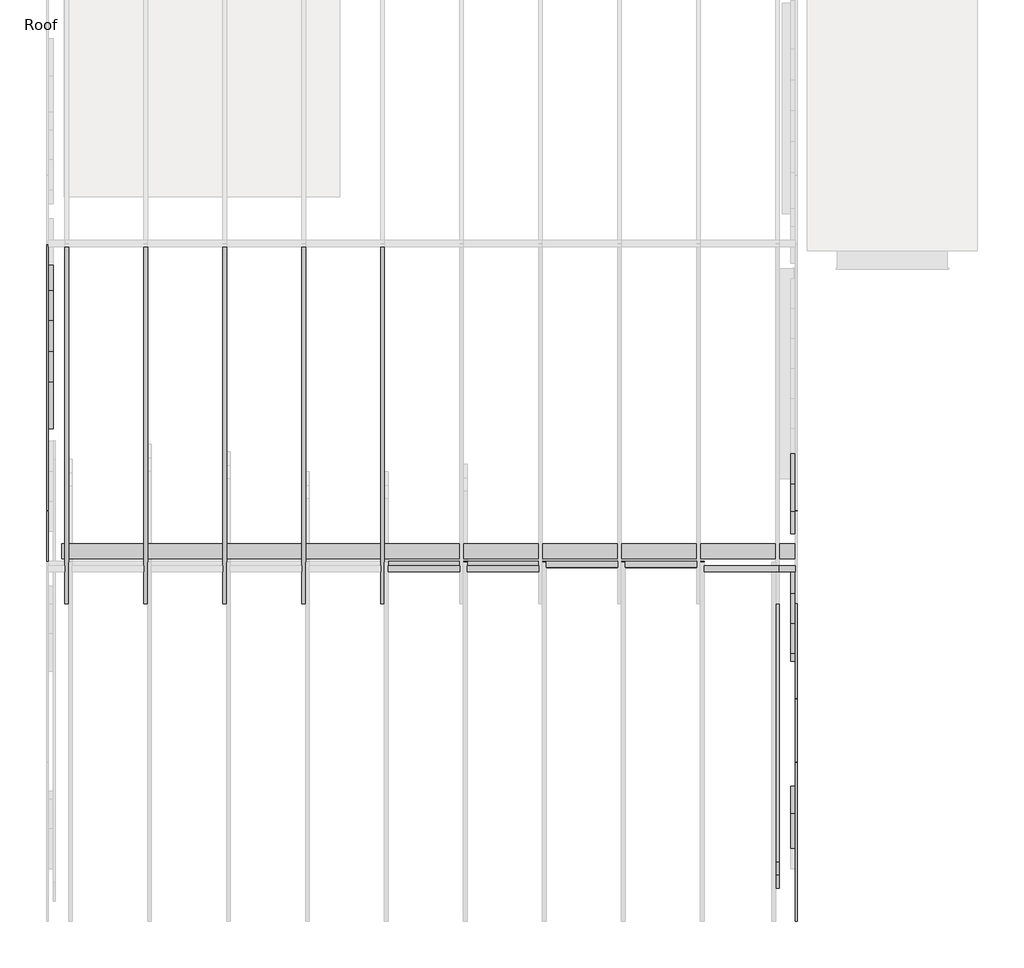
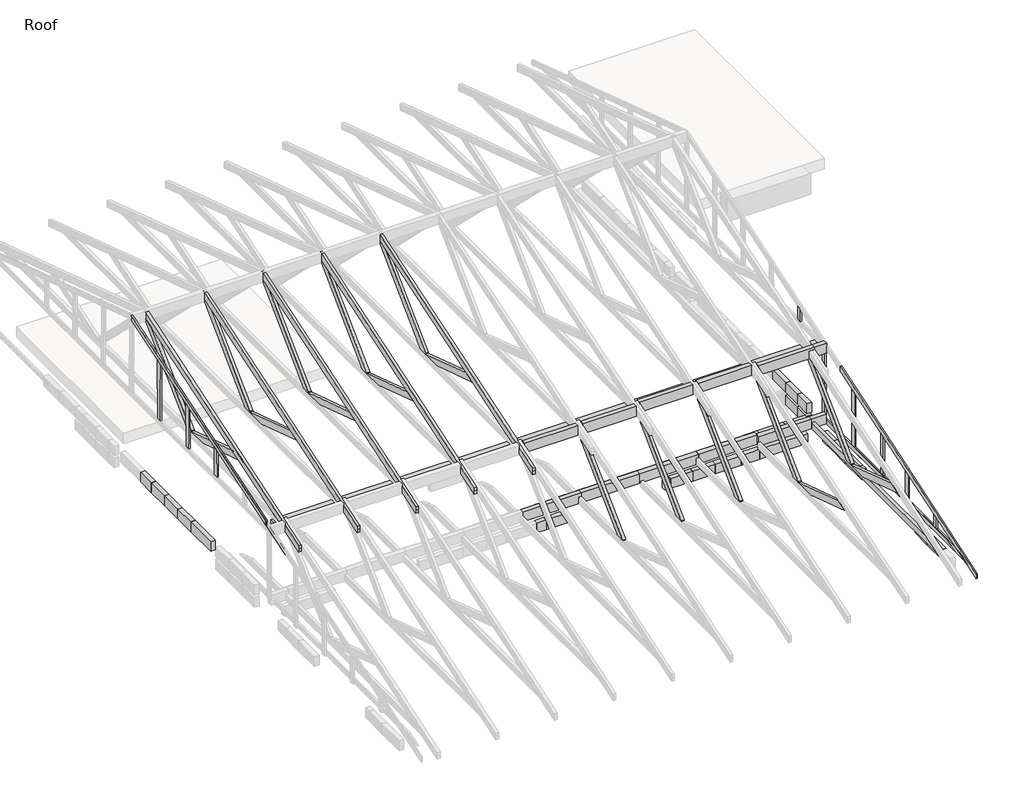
# One storey, part 2 of 5: 87 beams.
"""IFC4 building model written with IfcOpenShell, lengths in millimetres."""

from ifc_helpers import new_model, si_unit, frame, origin, place, context, project, spatial, polyline, outline, extrude, faceted_brep, transform, mapped, element, save
from components import beam_9a653d77, beam_1a415509, beam_5c19c8d0, beam_bdc5a986, beam_a51ce868, beam_5691c770, beam_a14fae22, beam_a3a851c1, experttrusspart_2_x_4_7bcd8695, beam_b4771957, beam_6c0b117f, beam_74c60bf1, beam_a2527db5, beam_15675283, beam_87a5317c, beam_8e5e3f5a, beam_466d3d54, beam_c39f55a4, beam_c2d99e7f, beam_ed930484, beam_e65ac014, beam_c20683a9, beam_0a54014a, beam_9d6aa0d6, beam_b55a0d5f, beam_a4d90c35, beam_cc9ad65c, beam_51b55d0f, beam_50f049cc, beam_f3d449ce, beam_d29d678d

model = new_model("IFC4")

# Units and contexts
model_context = context("Model", 3, world=origin())
ifc_project = project(units=[si_unit("LENGTHUNIT", "METRE", prefix="MILLI")], contexts=[model_context])

# Site, building, storey
site = spatial("IfcSite", under=ifc_project)
building = spatial("IfcBuilding", under=site)
storey = spatial("IfcBuildingStorey", under=building, Name="Roof", Elevation=4267.2)

# Beams
placement = place(None, origin())
element("IfcBeam", 1, ObjectType="BraceBeam : 1\" x 3\"", at=placement, inside=storey, context=model_context, shape_type="Brep", body=[
    faceted_brep([(-11513.8040766, -25617.9763369, 3399.7852354), (-11532.8540766, -25617.9763369, 3399.7852354), (-11532.8540766, -21960.3763369, 4593.5852354), (-11513.8040766, -21960.3763369, 4593.5852354), (-11532.8540766, -25617.9763369, 3433.1836052), (-11532.8540766, -25617.9763369, 3466.581975), (-11532.8540766, -21960.3763369, 4660.381975), (-11532.8540766, -21960.3763369, 4626.9836052), (-11513.8040766, -25617.9763369, 3466.581975), (-11513.8040766, -21960.3763369, 4660.381975), (-11513.8040766, -25617.9763369, 3433.1836052), (-11513.8040766, -21960.3763369, 4626.9836052)], [[[0, 1, 2, 3]], [[4, 5, 6, 7, 2, 1]], [[5, 8, 9, 6]], [[10, 0, 3, 11, 9, 8]], [[8, 5, 4, 1, 0, 10]], [[6, 9, 11, 3, 2, 7]]]),
    faceted_brep([(-11532.8540766, -25160.7763369, 3615.806975), (-11532.8540766, -21960.3763369, 4660.381975), (-11532.8540766, -21960.3763369, 4626.9836052), (-11532.8540766, -21960.3763369, 4593.5852354), (-11532.8540766, -25160.7763369, 3549.0102354), (-11513.8040766, -21960.3763369, 4593.5852354), (-11513.8040766, -25160.7763369, 3549.0102354), (-11513.8040766, -21960.3763369, 4660.381975), (-11513.8040766, -21960.3763369, 4626.9836052), (-11513.8040766, -25160.7763369, 3615.806975)], [[[0, 1, 2, 3, 4]], [[4, 3, 5, 6]], [[1, 7, 8, 5, 3, 2]], [[6, 5, 8, 7, 9]], [[9, 7, 1, 0]], [[4, 6, 9, 0]]]),
])
element("IfcBeam", 2, ObjectType="BraceBeam : 1\" x 3\"", at=placement, inside=storey, context=model_context, shape_type="Brep", body=[
    faceted_brep([(-3931.9039672, -25186.1763369, 2438.4434705), (-3912.8539672, -25186.1763369, 2438.4434705), (-3912.8539672, -28588.8970583, 2438.4434705), (-3931.9039672, -28588.8970583, 2438.4434705), (-3912.8539672, -25186.1763369, 2501.9434705), (-3912.8539672, -28394.3438668, 2501.9434705), (-3912.8539672, -28491.6204625, 2470.1934705), (-3931.9039672, -25186.1763369, 2501.9434705), (-3931.9039672, -28394.3438668, 2501.9434705), (-3931.9039672, -28491.6204625, 2470.1934705)], [[[0, 1, 2, 3]], [[1, 4, 5, 6, 2]], [[4, 7, 8, 5]], [[7, 0, 3, 9, 8]], [[7, 4, 1, 0]], [[5, 8, 9, 3, 2, 6]]]),
    faceted_brep([(-3931.9039672, -25186.1763369, 2438.4434705), (-3912.8539672, -25186.1763369, 2438.4434705), (-3912.8539672, -28355.4332285, 2438.4434705), (-3931.9039672, -28355.4332285, 2438.4434705), (-3931.9039672, -25186.1763369, 2501.9434705), (-3912.8539672, -25186.1763369, 2501.9434705), (-3912.8539672, -28160.880037, 2501.9434705), (-3931.9039672, -28160.880037, 2501.9434705)], [[[0, 1, 2, 3]], [[4, 5, 1, 0]], [[1, 5, 6, 2]], [[4, 0, 3, 7]], [[5, 4, 7, 6]], [[3, 2, 6, 7]]]),
])
element("IfcBeam", 3, ObjectType="BraceBeam : 1\" x 3\"", at=placement, inside=storey, context=model_context, shape_type="SweptSolid", body=[
    extrude(outline(polyline([(31.7500001, -9.525), (-31.75, -9.525), (-31.75, 9.525), (31.7500001, 9.525), (31.7500001, -9.525)])), frame((-3922.3790766, -25221.5557645, 2501.9434705), z_axis=(0.0, -0.0009999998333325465, 0.9999995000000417), x_axis=(2.093352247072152e-12, 0.9999995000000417, 0.0009999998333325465)), (0.0, 0.0, 1.0), 980.5139947),
])
element("IfcBeam", 4, ObjectType="BraceBeam : 1\" x 3\"", at=placement, inside=storey, context=model_context, shape_type="Brep", body=[
    faceted_brep([(-3931.904186, -28842.189196, 2347.4379827), (-3931.9040766, -25617.9763366, 3399.7852354), (-3912.8540766, -25617.9763372, 3399.7852354), (-3912.854186, -28842.1891967, 2347.4379827), (-3912.854186, -28842.1891967, 2380.8363525), (-3912.8540766, -25617.9763372, 3433.1836052), (-3912.8540766, -25617.9763372, 3466.581975), (-3912.854186, -28842.1891967, 2414.2347222), (-3931.9040766, -25617.9763366, 3466.581975), (-3931.904186, -28842.189196, 2414.2347222), (-3931.904186, -28842.189196, 2380.8363525), (-3931.9040766, -25617.9763366, 3433.1836052)], [[[0, 1, 2, 3]], [[4, 3, 2, 5, 6, 7]], [[7, 6, 8, 9]], [[10, 9, 8, 11, 1, 0]], [[9, 10, 0, 3, 4, 7]], [[6, 5, 2, 1, 11, 8]]]),
])
element("IfcBeam", 5, ObjectType="BraceBeam : 1\" x 3\"", at=placement, inside=storey, context=model_context, shape_type="Brep", body=[
    faceted_brep([(-3931.9041853, -28639.6920577, 2438.4434705), (-3931.903974, -25293.5535808, 2438.4434705), (-3912.853974, -25293.553582, 2438.4434705), (-3912.8541853, -28639.6920589, 2438.4434705), (-3912.8541792, -28542.4154631, 2470.1934705), (-3912.853974, -25293.553582, 2501.9434705), (-3912.854173, -28445.1388674, 2501.9434705), (-3931.903974, -25293.5535808, 2501.9434705), (-3931.904173, -28445.1388662, 2501.9434705), (-3931.9041792, -28542.4154619, 2470.1934705)], [[[0, 1, 2, 3]], [[4, 3, 2, 5, 6]], [[6, 5, 7, 8]], [[9, 8, 7, 1, 0]], [[8, 9, 0, 3, 4, 6]], [[5, 2, 1, 7]]]),
])
element("IfcBeam", 6, ObjectType="BraceBeam : 1\" x 3\"", at=placement, inside=storey, context=model_context, shape_type="Brep", body=[
    faceted_brep([(-11532.8540766, -25617.9763369, 3399.7852354), (-11532.8540766, -21960.3763369, 4593.5852354), (-11513.8040766, -21960.3763369, 4593.5852354), (-11513.8040766, -25617.9763369, 3399.7852354), (-11513.8040766, -25617.9763369, 3433.1836052), (-11513.8040766, -21960.3763369, 4626.9836052), (-11513.8040766, -21960.3763369, 4660.381975), (-11513.8040766, -25617.9763369, 3466.581975), (-11532.8540766, -21960.3763369, 4660.381975), (-11532.8540766, -25617.9763369, 3466.581975), (-11532.8540766, -25617.9763369, 3433.1836052), (-11532.8540766, -21960.3763369, 4626.9836052)], [[[0, 1, 2, 3]], [[4, 3, 2, 5, 6, 7]], [[7, 6, 8, 9]], [[10, 9, 8, 11, 1, 0]], [[9, 10, 0, 3, 4, 7]], [[6, 5, 2, 1, 11, 8]]]),
])
beam_shape = beam_9a653d77(model_context)
element("IfcBeam", 7, ObjectType="BraceBeam : 1\" x 3\"", at=placement, inside=storey, context=model_context, shape_type="MappedRepresentation", body=[
    mapped(beam_shape, transform((-3922.3790766, -24644.0985149, 3632.8478118), x_axis=(0.0, 0.011417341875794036, 0.9999348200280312), y_axis=(-1.0, 0.0, 0.0), z_axis=(0.0, -0.9999348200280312, 0.011417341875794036))),
])
beam_2_shape = beam_1a415509(model_context)
element("IfcBeam", 8, ObjectType="BraceBeam : 1\" x 3\"", at=placement, inside=storey, context=model_context, shape_type="MappedRepresentation", body=[
    mapped(beam_2_shape, transform((-3922.3790487, -27197.3036991, 2694.1185765), x_axis=(-3.6380339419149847e-07, 0.004583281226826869, 0.9999894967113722), y_axis=(-0.9999999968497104, -7.937618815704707e-05, 0.0), z_axis=(7.937535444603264e-05, -0.9999894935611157, 0.0045832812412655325))),
])
beam_3_shape = beam_5c19c8d0(model_context)
element("IfcBeam", 9, ObjectType="BraceBeam : 1\" x 3\"", at=placement, inside=storey, context=model_context, shape_type="MappedRepresentation", body=[
    mapped(beam_3_shape, transform((-3922.3790601, -27869.4769057, 2584.2761158), x_axis=(-8.141728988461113e-07, 0.0010722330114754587, 0.9999994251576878), y_axis=(-0.9999997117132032, -0.0007593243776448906, 0.0), z_axis=(0.0007593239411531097, -0.9999991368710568, 0.0010722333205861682))),
])
beam_4_shape = beam_bdc5a986(model_context)
element("IfcBeam", 10, ObjectType="BraceBeam : 1\" x 3\"", at=placement, inside=storey, context=model_context, shape_type="MappedRepresentation", body=[
    mapped(beam_4_shape, transform((-3922.3790272, -25929.0336015, 2900.8391841), x_axis=(-1.3927486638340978e-07, -0.001231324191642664, 0.9999992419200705), y_axis=(0.9999999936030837, -0.00011310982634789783, 0.0), z_axis=(0.00011310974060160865, 0.9999992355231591, 0.001231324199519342))),
])
beam_5_shape = beam_a51ce868(model_context)
element("IfcBeam", 11, ObjectType="BraceBeam : 1\" x 3\"", at=placement, inside=storey, context=model_context, shape_type="MappedRepresentation", body=[
    mapped(beam_5_shape, transform((-3922.3790388, -26612.5257611, 2789.1713542), x_axis=(-2.244192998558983e-07, -0.004077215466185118, 0.9999916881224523), y_axis=(0.9999999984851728, -5.504229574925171e-05, 0.0), z_axis=(5.504183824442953e-05, 0.9999916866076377, 0.004077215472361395))),
])
beam_6_shape = beam_5691c770(model_context)
element("IfcBeam", 12, ObjectType="BraceBeam : 1\" x 3\"", at=placement, inside=storey, context=model_context, shape_type="MappedRepresentation", body=[
    mapped(beam_6_shape, transform((-11523.3290766, -22627.5788952, 3962.3751938), x_axis=(0.0, 0.009073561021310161, 0.9999588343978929), y_axis=(-1.0, 0.0, 0.0), z_axis=(0.0, -0.9999588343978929, 0.009073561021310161))),
])
beam_7_shape = beam_a14fae22(model_context)
element("IfcBeam", 13, ObjectType="BraceBeam : 1\" x 3\"", at=placement, inside=storey, context=model_context, shape_type="MappedRepresentation", body=[
    mapped(beam_7_shape, transform((-11523.3290766, -23299.7521017, 3852.5327331), x_axis=(0.0, 0.009347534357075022, 0.9999563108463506), y_axis=(-1.0, 0.0, 0.0), z_axis=(0.0, -0.9999563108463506, 0.009347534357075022))),
])
beam_8_shape = beam_a3a851c1(model_context)
element("IfcBeam", 14, ObjectType="BraceBeam : 1\" x 3\"", at=placement, inside=storey, context=model_context, shape_type="MappedRepresentation", body=[
    mapped(beam_8_shape, transform((-11523.3290766, -23971.9253083, 3742.6902724), x_axis=(0.0, 0.009884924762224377, 0.9999511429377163), y_axis=(-1.0, 0.0, 0.0), z_axis=(0.0, -0.9999511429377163, 0.009884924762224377))),
])
element("IfcBeam", 15, ObjectType="ExpertTrussPart : 2 x 4", at=placement, inside=storey, context=model_context, shape_type="SweptSolid", body=[
    extrude(outline(polyline([(-22127.3062634, 4512.3824664), (-21960.3763369, 4566.8665396), (-21960.3763369, 4551.4138285), (-22961.2854639, 3571.356975), (-23070.2152636, 3571.356975), (-23071.8996445, 3587.468114), (-22127.3062634, 4512.3824664)])), frame((-11346.7990766, 0.0, 0.0), z_axis=(1.0, 0.0, 0.0), x_axis=(0.0, 1.0, 0.0)), (0.0, 0.0, 1.0), 38.1),
])
element("IfcBeam", 16, ObjectType="ExpertTrussPart : 2 x 4", at=placement, inside=storey, context=model_context, shape_type="SweptSolid", body=[
    extrude(outline(polyline([(-24166.2622428, 3931.4022483), (-23070.4650535, 3573.7462213), (-23070.2152636, 3571.356975), (-23349.6601858, 3571.356975), (-24309.5199309, 3884.6445307), (-24237.8910869, 3908.0233895), (-24166.2622428, 3931.4022483)])), frame((-11346.7990766, 0.0, 0.0), z_axis=(1.0, 0.0, 0.0), x_axis=(0.0, 1.0, 0.0)), (0.0, 0.0, 1.0), 38.1),
])
element("IfcBeam", 17, ObjectType="ExpertTrussPart : 2 x 4", at=placement, inside=storey, context=model_context, shape_type="SweptSolid", body=[
    extrude(outline(polyline([(-22127.3062634, 4512.3824664), (-21960.3763369, 4566.8665396), (-21960.3763369, 4551.4138285), (-22961.2854639, 3571.356975), (-23070.2152636, 3571.356975), (-23071.8996445, 3587.468114), (-22127.3062634, 4512.3824664)])), frame((-10545.0057433, 0.0, 0.0), z_axis=(1.0, 0.0, 0.0), x_axis=(0.0, 1.0, 0.0)), (0.0, 0.0, 1.0), 38.1),
])
element("IfcBeam", 18, ObjectType="ExpertTrussPart : 2 x 4", at=placement, inside=storey, context=model_context, shape_type="SweptSolid", body=[
    extrude(outline(polyline([(-24036.796502, 3889.1460691), (-23070.4650535, 3573.7462213), (-23070.2152636, 3571.356975), (-23349.6601858, 3571.356975), (-24180.0541902, 3842.3883514), (-24108.4253461, 3865.7672102), (-24036.796502, 3889.1460691)])), frame((-10545.0057433, 0.0, 0.0), z_axis=(1.0, 0.0, 0.0), x_axis=(0.0, 1.0, 0.0)), (0.0, 0.0, 1.0), 38.1),
])
element("IfcBeam", 19, ObjectType="ExpertTrussPart : 2 x 4", at=placement, inside=storey, context=model_context, shape_type="SweptSolid", body=[
    extrude(outline(polyline([(-22127.3062634, 4512.3824664), (-21960.3763369, 4566.8665396), (-21960.3763369, 4551.4138285), (-22961.2854639, 3571.356975), (-23070.2152636, 3571.356975), (-23071.8996445, 3587.468114), (-22127.3062634, 4512.3824664)])), frame((-9743.2124099, 0.0, 0.0), z_axis=(1.0, 0.0, 0.0), x_axis=(0.0, 1.0, 0.0)), (0.0, 0.0, 1.0), 38.1),
])
element("IfcBeam", 20, ObjectType="ExpertTrussPart : 2 x 4", at=placement, inside=storey, context=model_context, shape_type="SweptSolid", body=[
    extrude(outline(polyline([(-24036.796502, 3889.1460691), (-23070.4650535, 3573.7462213), (-23070.2152636, 3571.356975), (-23349.6601858, 3571.356975), (-24180.0541902, 3842.3883514), (-24108.4253461, 3865.7672102), (-24036.796502, 3889.1460691)])), frame((-9743.2124099, 0.0, 0.0), z_axis=(1.0, 0.0, 0.0), x_axis=(0.0, 1.0, 0.0)), (0.0, 0.0, 1.0), 38.1),
])
element("IfcBeam", 21, ObjectType="ExpertTrussPart : 2 x 4", at=placement, inside=storey, context=model_context, shape_type="SweptSolid", body=[
    extrude(outline(polyline([(-22127.3062634, 4512.3824664), (-21960.3763369, 4566.8665396), (-21960.3763369, 4551.4138285), (-22961.2854639, 3571.356975), (-23070.2152636, 3571.356975), (-23071.8996445, 3587.468114), (-22127.3062634, 4512.3824664)])), frame((-8941.4190766, 0.0, 0.0), z_axis=(1.0, 0.0, 0.0), x_axis=(0.0, 1.0, 0.0)), (0.0, 0.0, 1.0), 38.1),
])
element("IfcBeam", 22, ObjectType="ExpertTrussPart : 2 x 4", at=placement, inside=storey, context=model_context, shape_type="SweptSolid", body=[
    extrude(outline(polyline([(-24036.796502, 3889.1460691), (-23070.4650535, 3573.7462213), (-23070.2152636, 3571.356975), (-23349.6601858, 3571.356975), (-24180.0541902, 3842.3883514), (-24108.4253461, 3865.7672102), (-24036.796502, 3889.1460691)])), frame((-8941.4190766, 0.0, 0.0), z_axis=(1.0, 0.0, 0.0), x_axis=(0.0, 1.0, 0.0)), (0.0, 0.0, 1.0), 38.1),
])
element("IfcBeam", 23, ObjectType="ExpertTrussPart : 2 x 4", at=placement, inside=storey, context=model_context, shape_type="SweptSolid", body=[
    extrude(outline(polyline([(-22127.3062634, 4512.3824664), (-21960.3763369, 4566.8665396), (-21960.3763369, 4551.4138285), (-22961.2854639, 3571.356975), (-23070.2152636, 3571.356975), (-23071.8996445, 3587.468114), (-22127.3062634, 4512.3824664)])), frame((-8139.6257433, 0.0, 0.0), z_axis=(1.0, 0.0, 0.0), x_axis=(0.0, 1.0, 0.0)), (0.0, 0.0, 1.0), 38.1),
])
element("IfcBeam", 24, ObjectType="ExpertTrussPart : 2 x 4", at=placement, inside=storey, context=model_context, shape_type="SweptSolid", body=[
    extrude(outline(polyline([(-24036.796502, 3889.1460691), (-23070.4650535, 3573.7462213), (-23070.2152636, 3571.356975), (-23349.6601858, 3571.356975), (-24180.0541902, 3842.3883514), (-24108.4253461, 3865.7672102), (-24036.796502, 3889.1460691)])), frame((-8139.6257433, 0.0, 0.0), z_axis=(1.0, 0.0, 0.0), x_axis=(0.0, 1.0, 0.0)), (0.0, 0.0, 1.0), 38.1),
])
element("IfcBeam", 25, ObjectType="ExpertTrussPart : 2 x 4", at=placement, inside=storey, context=model_context, shape_type="SweptSolid", body=[
    extrude(outline(polyline([(-25364.2857159, 3455.8683395), (-25197.3557894, 3510.3524128), (-25197.3557894, 3494.8997017), (-26185.4983234, 2527.3434705), (-26294.428123, 2527.3434705), (-26296.112504, 2543.4546095), (-25364.2857159, 3455.8683395)])), frame((-7299.7323005, 0.0, 0.0), z_axis=(1.0, 0.0, 0.0), x_axis=(0.0, 1.0, 0.0)), (0.0, 0.0, 1.0), 38.1),
])
element("IfcBeam", 26, ObjectType="ExpertTrussPart : 2 x 4", at=placement, inside=storey, context=model_context, shape_type="SweptSolid", body=[
    extrude(outline(polyline([(-25364.2857159, 3455.8683395), (-25197.3557894, 3510.3524128), (-25197.3557894, 3494.8997017), (-26185.4983234, 2527.3434705), (-26294.428123, 2527.3434705), (-26296.112504, 2543.4546095), (-25364.2857159, 3455.8683395)])), frame((-6497.9389672, 0.0, 0.0), z_axis=(1.0, 0.0, 0.0), x_axis=(0.0, 1.0, 0.0)), (0.0, 0.0, 1.0), 38.1),
])
element("IfcBeam", 27, ObjectType="ExpertTrussPart : 2 x 4", at=placement, inside=storey, context=model_context, shape_type="SweptSolid", body=[
    extrude(outline(polyline([(-25364.2857159, 3455.8683395), (-25197.3557894, 3510.3524128), (-25197.3557894, 3494.8997017), (-26185.4983234, 2527.3434705), (-26294.428123, 2527.3434705), (-26296.112504, 2543.4546095), (-25364.2857159, 3455.8683395)])), frame((-5696.1456339, 0.0, 0.0), z_axis=(1.0, 0.0, 0.0), x_axis=(0.0, 1.0, 0.0)), (0.0, 0.0, 1.0), 38.1),
])
element("IfcBeam", 28, ObjectType="ExpertTrussPart : 2 x 4", at=placement, inside=storey, context=model_context, shape_type="SweptSolid", body=[
    extrude(outline(polyline([(-25364.2857159, 3455.8683395), (-25197.3557894, 3510.3524128), (-25197.3557894, 3494.8997017), (-26185.4983234, 2527.3434705), (-26294.428123, 2527.3434705), (-26296.112504, 2543.4546095), (-25364.2857159, 3455.8683395)])), frame((-4894.3523005, 0.0, 0.0), z_axis=(1.0, 0.0, 0.0), x_axis=(0.0, 1.0, 0.0)), (0.0, 0.0, 1.0), 38.1),
])
element("IfcBeam", 29, ObjectType="ExpertTrussPart : 2 x 4", at=placement, inside=storey, context=model_context, shape_type="SweptSolid", body=[
    extrude(outline(polyline([(-27261.0093615, 2845.1325646), (-26294.677913, 2529.7327168), (-26294.428123, 2527.3434705), (-26573.8730452, 2527.3434705), (-27404.2670497, 2798.3748469), (-27332.6382056, 2821.7537058), (-27261.0093615, 2845.1325646)])), frame((-4894.3523005, 0.0, 0.0), z_axis=(1.0, 0.0, 0.0), x_axis=(0.0, 1.0, 0.0)), (0.0, 0.0, 1.0), 38.1),
])
element("IfcBeam", 30, ObjectType="ExpertTrussPart : 2 x 4", at=placement, inside=storey, context=model_context, shape_type="SweptSolid", body=[
    extrude(outline(polyline([(-25222.0136645, 2527.3434705), (-25222.0136645, 2482.8934705), (-25222.0136645, 2438.4434705), (-28507.0355222, 2438.4434705), (-28370.8482881, 2482.8934705), (-28234.6610541, 2527.3434705), (-25222.0136645, 2527.3434705)])), frame((-4130.6589672, 0.0, 0.0), z_axis=(1.0, 0.0, 0.0), x_axis=(0.0, 1.0, 0.0)), (0.0, 0.0, 1.0), 38.1),
])
element("IfcBeam", 31, ObjectType="ExpertTrussPart : 2 x 4", at=placement, inside=storey, context=model_context, shape_type="SweptSolid", body=[
    extrude(outline(polyline([(-25364.2857159, 3455.8683395), (-25197.3557894, 3510.3524128), (-25197.3557894, 3494.8997017), (-26185.4983234, 2527.3434705), (-26294.428123, 2527.3434705), (-26296.112504, 2543.4546095), (-25364.2857159, 3455.8683395)])), frame((-4168.759186, 0.0, 0.0), z_axis=(1.0, 0.0, 0.0), x_axis=(0.0, 1.0, 0.0)), (0.0, 0.0, 1.0), 38.1),
])
element("IfcBeam", 32, ObjectType="ExpertTrussPart : 2 x 4", at=placement, inside=storey, context=model_context, shape_type="SweptSolid", body=[
    extrude(outline(polyline([(-27261.0093615, 2845.1325646), (-26294.677913, 2529.7327168), (-26294.428123, 2527.3434705), (-26573.8730452, 2527.3434705), (-27404.2670497, 2798.3748469), (-27332.6382056, 2821.7537058), (-27261.0093615, 2845.1325646)])), frame((-4168.759186, 0.0, 0.0), z_axis=(1.0, 0.0, 0.0), x_axis=(0.0, 1.0, 0.0)), (0.0, 0.0, 1.0), 38.1),
])
experttrusspart_2_x_4_shape = experttrusspart_2_x_4_7bcd8695(model_context)
element("IfcBeam", 33, ObjectType="ExpertTrussPart : 2 x 4", at=placement, inside=storey, context=model_context, shape_type="MappedRepresentation", body=[
    mapped(experttrusspart_2_x_4_shape, transform((-10525.9557433, -23775.3843895, 3974.468078), x_axis=(0.0, -0.9506452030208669, -0.310280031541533), y_axis=(1.0, 0.0, 0.0), z_axis=(0.0, -0.31028003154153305, 0.950645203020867))),
])
element("IfcBeam", 34, ObjectType="ExpertTrussPart : 2 x 4", at=placement, inside=storey, context=model_context, shape_type="MappedRepresentation", body=[
    mapped(experttrusspart_2_x_4_shape, transform((-9724.1624099, -23775.3843895, 3974.468078), x_axis=(0.0, -0.9506452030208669, -0.310280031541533), y_axis=(1.0, 0.0, 0.0), z_axis=(0.0, -0.31028003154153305, 0.950645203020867))),
])
element("IfcBeam", 35, ObjectType="ExpertTrussPart : 2 x 4", at=placement, inside=storey, context=model_context, shape_type="MappedRepresentation", body=[
    mapped(experttrusspart_2_x_4_shape, transform((-8922.3690766, -23775.3843895, 3974.468078), x_axis=(0.0, -0.9506452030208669, -0.310280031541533), y_axis=(1.0, 0.0, 0.0), z_axis=(0.0, -0.31028003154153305, 0.950645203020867))),
])
element("IfcBeam", 36, ObjectType="ExpertTrussPart : 2 x 4", at=placement, inside=storey, context=model_context, shape_type="MappedRepresentation", body=[
    mapped(experttrusspart_2_x_4_shape, transform((-8120.5757433, -23775.3843895, 3974.468078), x_axis=(0.0, -0.9506452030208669, -0.310280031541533), y_axis=(1.0, 0.0, 0.0), z_axis=(0.0, -0.31028003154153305, 0.950645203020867))),
])
element("IfcBeam", 37, ObjectType="ExpertTrussPart : 2 x 4", at=placement, inside=storey, context=model_context, shape_type="MappedRepresentation", body=[
    mapped(experttrusspart_2_x_4_shape, transform((-11327.7490766, -23775.3843895, 3974.468078), x_axis=(0.0, -0.9506452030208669, -0.310280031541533), y_axis=(1.0, 0.0, 0.0), z_axis=(0.0, -0.31028003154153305, 0.950645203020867))),
])
element("IfcBeam", 38, ObjectType="Rectangular(Timber)-Beam : Timber_0' - 1 31/32\" x0' - 5 29/32\" _ContentGenerator", at=placement, inside=storey, context=model_context, shape_type="SweptSolid", body=[
    extrude(outline(polyline([(-3909.6790766, -25008.3763369), (-3909.6790766, -25160.7763369), (-11377.2790766, -25160.7763369), (-11377.2790766, -25008.3763369), (-3909.6790766, -25008.3763369)])), frame((0.0, 0.0, 3431.656975), z_axis=(0.0, 0.0, 1.0), x_axis=(1.0, 0.0, 0.0)), (0.0, 0.0, 1.0), 50.8),
])
element("IfcBeam", 39, ObjectType="WallPlates : 6\" x 3\"", at=placement, inside=storey, context=model_context, shape_type="SweptSolid", body=[
    extrude(outline(polyline([(-5734.2456339, -25186.1763369), (-5734.2456339, -25249.6763369), (-6459.8389672, -25249.6763369), (-6459.8389672, -25186.1763369), (-5734.2456339, -25186.1763369)])), frame((0.0, 0.0, 3467.8166972), z_axis=(0.0, 0.0, 1.0), x_axis=(1.0, 0.0, 0.0)), (0.0, 0.0, 1.0), 139.7),
    extrude(outline(polyline([(-25186.1763369, 3607.5166972), (-25186.1763369, 3467.8166972), (-25249.6763369, 3467.8166972), (-25249.6763369, 3586.7910027), (-25186.1763369, 3607.5166972)])), frame((-6459.8389672, 0.0, 0.0), z_axis=(1.0, 0.0, 0.0), x_axis=(0.0, 1.0, 0.0)), (0.0, 0.0, 1.0), 725.5933333),
])
beam_9_shape = beam_b4771957(model_context)
element("IfcBeam", 40, ObjectType="WallPlates : 6\" x 3\"", at=placement, inside=storey, context=model_context, shape_type="MappedRepresentation", body=[
    mapped(beam_9_shape, transform((-3944.6040766, -24540.8509408, 2260.6), x_axis=(0.0, -1.0000000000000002, 0.0), y_axis=(0.0, 0.0, -1.0000000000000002), z_axis=(1.0000000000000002, 0.0, 0.0))),
])
beam_10_shape = beam_6c0b117f(model_context)
element("IfcBeam", 41, ObjectType="WallPlates : 6\" x 3\"", at=placement, inside=storey, context=model_context, shape_type="MappedRepresentation", body=[
    mapped(beam_10_shape, transform((-4262.7340893, -25125.8513369, 2438.4), x_axis=(1.0000000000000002, 0.0, 0.0), y_axis=(0.0, 0.0, -1.0000000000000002), z_axis=(0.0, 1.0000000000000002, 0.0))),
])
element("IfcBeam", 42, ObjectType="WallPlates : 6\" x 3\"", at=placement, inside=storey, context=model_context, shape_type="MappedRepresentation", body=[
    mapped(beam_10_shape, transform((-4262.7340893, -25125.8513369, 2209.8), x_axis=(1.0000000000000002, 0.0, 0.0), y_axis=(0.0, 0.0, -1.0000000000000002), z_axis=(0.0, 1.0000000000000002, 0.0))),
])
beam_11_shape = beam_74c60bf1(model_context)
element("IfcBeam", 43, ObjectType="WallPlates : 6\" x 3\"", at=placement, inside=storey, context=model_context, shape_type="MappedRepresentation", body=[
    mapped(beam_11_shape, transform((-5295.2489672, -25217.9263369, 3537.6666972), x_axis=(-1.0000000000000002, 0.0, 0.0), y_axis=(0.0, 0.0, -1.0000000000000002), z_axis=(0.0, -1.0000000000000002, 0.0))),
])
element("IfcBeam", 44, ObjectType="WallPlates : 6\" x 3\"", at=placement, inside=storey, context=model_context, shape_type="MappedRepresentation", body=[
    mapped(beam_11_shape, transform((-6898.8356339, -25262.3763369, 3534.0178481), x_axis=(-1.0000000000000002, 0.0, 0.0), y_axis=(0.0, 0.0, -1.0000000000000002), z_axis=(0.0, -1.0000000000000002, 0.0))),
])
element("IfcBeam", 45, ObjectType="WallPlates : 6\" x 3\"", at=placement, inside=storey, context=model_context, shape_type="MappedRepresentation", body=[
    mapped(beam_11_shape, transform((-7700.6289672, -25262.3763369, 3534.0178481), x_axis=(-1.0000000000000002, 0.0, 0.0), y_axis=(0.0, 0.0, -1.0000000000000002), z_axis=(0.0, -1.0000000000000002, 0.0))),
])
beam_12_shape = beam_a2527db5(model_context)
element("IfcBeam", 46, ObjectType="WallPlates : 6\" x 3\"", at=placement, inside=storey, context=model_context, shape_type="MappedRepresentation", body=[
    mapped(beam_12_shape, transform((-6058.9423005, -25217.9263369, 2508.2934705), x_axis=(-1.0000000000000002, 0.0, 0.0), y_axis=(0.0, 0.0, -1.0000000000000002), z_axis=(0.0, -1.0000000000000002, 0.0))),
])
element("IfcBeam", 47, ObjectType="WallPlates : 6\" x 3\"", at=placement, inside=storey, context=model_context, shape_type="MappedRepresentation", body=[
    mapped(beam_12_shape, transform((-6860.7356339, -25217.9263369, 2508.2934705), x_axis=(-1.0000000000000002, 0.0, 0.0), y_axis=(0.0, 0.0, -1.0000000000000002), z_axis=(0.0, -1.0000000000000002, 0.0))),
])
element("IfcBeam", 48, ObjectType="WallPlates : 6\" x 3\"", at=placement, inside=storey, context=model_context, shape_type="MappedRepresentation", body=[
    mapped(beam_12_shape, transform((-7662.5289672, -25217.9263369, 2508.2934705), x_axis=(-1.0000000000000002, 0.0, 0.0), y_axis=(0.0, 0.0, -1.0000000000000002), z_axis=(0.0, -1.0000000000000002, 0.0))),
])
element("IfcBeam", 49, ObjectType="WallPlates : 6\" x 3\"", at=placement, inside=storey, context=model_context, shape_type="MappedRepresentation", body=[
    mapped(beam_12_shape, transform((-5257.1489672, -25217.9263369, 2508.2934705), x_axis=(-1.0000000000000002, 0.0, 0.0), y_axis=(0.0, 0.0, -1.0000000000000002), z_axis=(0.0, -1.0000000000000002, 0.0))),
])
beam_13_shape = beam_15675283(model_context)
element("IfcBeam", 50, ObjectType="WallPlates : 6\" x 3\"", at=placement, inside=storey, context=model_context, shape_type="MappedRepresentation", body=[
    mapped(beam_13_shape, transform((-4034.4445042, -25262.3763369, 2508.2934705), x_axis=(-1.0000000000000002, 0.0, 0.0), y_axis=(0.0, 0.0, -1.0000000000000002), z_axis=(0.0, -1.0000000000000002, 0.0))),
])
beam_14_shape = beam_87a5317c(model_context)
element("IfcBeam", 51, ObjectType="WallPlates : 6\" x 3\"", at=placement, inside=storey, context=model_context, shape_type="MappedRepresentation", body=[
    mapped(beam_14_shape, transform((-4476.6281886, -25262.3763369, 3534.0178481), x_axis=(-1.0000000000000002, 0.0, 0.0), y_axis=(0.0, 0.0, -1.0000000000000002), z_axis=(0.0, -1.0000000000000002, 0.0))),
])
beam_15_shape = beam_8e5e3f5a(model_context)
element("IfcBeam", 52, ObjectType="WallPlates : 6\" x 3\"", at=placement, inside=storey, context=model_context, shape_type="MappedRepresentation", body=[
    mapped(beam_15_shape, transform((-4013.5015766, -25262.3763369, 3534.0178481), x_axis=(-1.0000000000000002, 0.0, 0.0), y_axis=(0.0, 0.0, -1.0000000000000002), z_axis=(0.0, -1.0000000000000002, 0.0))),
])
beam_16_shape = beam_466d3d54(model_context)
element("IfcBeam", 53, ObjectType="WallPlates : 6\" x 3\"", at=placement, inside=storey, context=model_context, shape_type="MappedRepresentation", body=[
    mapped(beam_16_shape, transform((-4496.6186222, -25262.3763369, 2508.2934705), x_axis=(-1.0000000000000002, 0.0, 0.0), y_axis=(0.0, 0.0, -1.0000000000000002), z_axis=(0.0, -1.0000000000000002, 0.0))),
])
element("IfcBeam", 54, ObjectType="WallPlates : 6\" x 3\"", at=placement, inside=storey, context=model_context, shape_type="MappedRepresentation", body=[
    mapped(beam_9_shape, transform((-3944.6040766, -24540.8509408, 2438.4), x_axis=(0.0, -1.0000000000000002, 0.0), y_axis=(0.0, 0.0, -1.0000000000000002), z_axis=(1.0000000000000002, 0.0, 0.0))),
])
beam_17_shape = beam_c39f55a4(model_context)
element("IfcBeam", 55, ObjectType="WallPlates : 6\" x 3\"", at=placement, inside=storey, context=model_context, shape_type="MappedRepresentation", body=[
    mapped(beam_17_shape, transform((-3944.6040766, -24248.7671467, 2438.4), x_axis=(0.0, -1.0000000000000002, 0.0), y_axis=(0.0, 0.0, -1.0000000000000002), z_axis=(1.0000000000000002, 0.0, 0.0))),
])
beam_18_shape = beam_c2d99e7f(model_context)
element("IfcBeam", 56, ObjectType="WallPlates : 6\" x 3\"", at=placement, inside=storey, context=model_context, shape_type="MappedRepresentation", body=[
    mapped(beam_18_shape, transform((-3944.6040766, -26164.0813369, 2266.95), x_axis=(0.0, 1.0000000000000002, 0.0), y_axis=(0.0, 0.0, -1.0000000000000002), z_axis=(-1.0000000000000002, 0.0, 0.0))),
])
beam_19_shape = beam_ed930484(model_context)
element("IfcBeam", 57, ObjectType="WallPlates : 6\" x 3\"", at=placement, inside=storey, context=model_context, shape_type="MappedRepresentation", body=[
    mapped(beam_19_shape, transform((-7096.5274353, -25125.8513369, 2438.4), x_axis=(1.0000000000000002, 0.0, 0.0), y_axis=(0.0, 0.0, -1.0000000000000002), z_axis=(0.0, 1.0000000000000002, 0.0))),
])
beam_20_shape = beam_e65ac014(model_context)
element("IfcBeam", 58, ObjectType="WallPlates : 6\" x 3\"", at=placement, inside=storey, context=model_context, shape_type="MappedRepresentation", body=[
    mapped(beam_20_shape, transform((-11494.7540766, -23602.9146702, 2438.4), x_axis=(0.0, -1.0000000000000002, 0.0), y_axis=(0.0, 0.0, -1.0000000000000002), z_axis=(1.0000000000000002, 0.0, 0.0))),
])
beam_21_shape = beam_c20683a9(model_context)
element("IfcBeam", 59, ObjectType="WallPlates : 6\" x 3\"", at=placement, inside=storey, context=model_context, shape_type="MappedRepresentation", body=[
    mapped(beam_21_shape, transform((-3944.6040766, -27611.8713369, 2266.95), x_axis=(0.0, 1.0000000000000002, 0.0), y_axis=(0.0, 0.0, -1.0000000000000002), z_axis=(-1.0000000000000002, 0.0, 0.0))),
])
beam_22_shape = beam_0a54014a(model_context)
element("IfcBeam", 60, ObjectType="WallPlates : 6\" x 3\"", at=placement, inside=storey, context=model_context, shape_type="MappedRepresentation", body=[
    mapped(beam_22_shape, transform((-7755.2415766, -25125.8513369, 2438.4), x_axis=(1.0000000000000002, 0.0, 0.0), y_axis=(0.0, 0.0, -1.0000000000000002), z_axis=(0.0, 1.0000000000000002, 0.0))),
])
element("IfcBeam", 61, ObjectType="WallPlates : 6\" x 3\"", at=placement, inside=storey, context=model_context, shape_type="MappedRepresentation", body=[
    mapped(beam_22_shape, transform((-7755.2415766, -25125.8513369, 2209.8), x_axis=(1.0000000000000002, 0.0, 0.0), y_axis=(0.0, 0.0, -1.0000000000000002), z_axis=(0.0, 1.0000000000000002, 0.0))),
])
beam_23_shape = beam_9d6aa0d6(model_context)
element("IfcBeam", 62, ObjectType="WallPlates : 6\" x 3\"", at=placement, inside=storey, context=model_context, shape_type="MappedRepresentation", body=[
    mapped(beam_23_shape, transform((-11494.7540766, -22586.9096702, 2438.4), x_axis=(0.0, -1.0000000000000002, 0.0), y_axis=(0.0, 0.0, -1.0000000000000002), z_axis=(1.0000000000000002, 0.0, 0.0))),
])
element("IfcBeam", 63, ObjectType="WallPlates : 6\" x 3\"", at=placement, inside=storey, context=model_context, shape_type="MappedRepresentation", body=[
    mapped(beam_23_shape, transform((-11494.7540766, -23213.4430036, 2438.4), x_axis=(0.0, -1.0000000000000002, 0.0), y_axis=(0.0, 0.0, -1.0000000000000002), z_axis=(1.0000000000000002, 0.0, 0.0))),
])
element("IfcBeam", 64, ObjectType="WallPlates : 6\" x 3\"", at=placement, inside=storey, context=model_context, shape_type="MappedRepresentation", body=[
    mapped(beam_23_shape, transform((-5834.999102, -25125.8513369, 2438.4), x_axis=(1.0000000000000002, 0.0, 0.0), y_axis=(0.0, 0.0, -1.0000000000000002), z_axis=(0.0, 1.0000000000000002, 0.0))),
])
element("IfcBeam", 65, ObjectType="WallPlates : 6\" x 3\"", at=placement, inside=storey, context=model_context, shape_type="MappedRepresentation", body=[
    mapped(beam_23_shape, transform((-5530.199102, -25125.8513369, 2438.4), x_axis=(1.0000000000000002, 0.0, 0.0), y_axis=(0.0, 0.0, -1.0000000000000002), z_axis=(0.0, 1.0000000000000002, 0.0))),
])
element("IfcBeam", 66, ObjectType="WallPlates : 6\" x 3\"", at=placement, inside=storey, context=model_context, shape_type="MappedRepresentation", body=[
    mapped(beam_23_shape, transform((-3944.6040766, -25973.5763369, 2266.95), x_axis=(0.0, 1.0000000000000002, 0.0), y_axis=(0.0, 0.0, -1.0000000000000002), z_axis=(-1.0000000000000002, 0.0, 0.0))),
])
element("IfcBeam", 67, ObjectType="WallPlates : 6\" x 3\"", at=placement, inside=storey, context=model_context, shape_type="MappedRepresentation", body=[
    mapped(beam_23_shape, transform((-3944.6040766, -25668.7763369, 2266.95), x_axis=(0.0, 1.0000000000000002, 0.0), y_axis=(0.0, 0.0, -1.0000000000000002), z_axis=(-1.0000000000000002, 0.0, 0.0))),
])
element("IfcBeam", 68, ObjectType="WallPlates : 6\" x 3\"", at=placement, inside=storey, context=model_context, shape_type="MappedRepresentation", body=[
    mapped(beam_23_shape, transform((-5834.999102, -25125.8513369, 2209.8), x_axis=(1.0000000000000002, 0.0, 0.0), y_axis=(0.0, 0.0, -1.0000000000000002), z_axis=(0.0, 1.0000000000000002, 0.0))),
])
element("IfcBeam", 69, ObjectType="WallPlates : 6\" x 3\"", at=placement, inside=storey, context=model_context, shape_type="MappedRepresentation", body=[
    mapped(beam_23_shape, transform((-5530.199102, -25125.8513369, 2209.8), x_axis=(1.0000000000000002, 0.0, 0.0), y_axis=(0.0, 0.0, -1.0000000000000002), z_axis=(0.0, 1.0000000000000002, 0.0))),
])
beam_24_shape = beam_b55a0d5f(model_context)
element("IfcBeam", 70, ObjectType="WallPlates : 6\" x 3\"", at=placement, inside=storey, context=model_context, shape_type="MappedRepresentation", body=[
    mapped(beam_24_shape, transform((-5199.999102, -25125.8513369, 2438.4), x_axis=(1.0000000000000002, 0.0, 0.0), y_axis=(0.0, 0.0, -1.0000000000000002), z_axis=(0.0, 1.0000000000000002, 0.0))),
])
element("IfcBeam", 71, ObjectType="WallPlates : 6\" x 3\"", at=placement, inside=storey, context=model_context, shape_type="MappedRepresentation", body=[
    mapped(beam_24_shape, transform((-4590.399102, -25125.8513369, 2438.4), x_axis=(1.0000000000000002, 0.0, 0.0), y_axis=(0.0, 0.0, -1.0000000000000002), z_axis=(0.0, 1.0000000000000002, 0.0))),
])
element("IfcBeam", 72, ObjectType="WallPlates : 6\" x 3\"", at=placement, inside=storey, context=model_context, shape_type="MappedRepresentation", body=[
    mapped(beam_24_shape, transform((-3944.6040766, -27929.3763369, 2266.95), x_axis=(0.0, 1.0000000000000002, 0.0), y_axis=(0.0, 0.0, -1.0000000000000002), z_axis=(-1.0000000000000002, 0.0, 0.0))),
])
element("IfcBeam", 73, ObjectType="WallPlates : 6\" x 3\"", at=placement, inside=storey, context=model_context, shape_type="MappedRepresentation", body=[
    mapped(beam_24_shape, transform((-5199.999102, -25125.8513369, 2209.8), x_axis=(1.0000000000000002, 0.0, 0.0), y_axis=(0.0, 0.0, -1.0000000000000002), z_axis=(0.0, 1.0000000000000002, 0.0))),
])
element("IfcBeam", 74, ObjectType="WallPlates : 6\" x 3\"", at=placement, inside=storey, context=model_context, shape_type="MappedRepresentation", body=[
    mapped(beam_24_shape, transform((-4590.399102, -25125.8513369, 2209.8), x_axis=(1.0000000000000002, 0.0, 0.0), y_axis=(0.0, 0.0, -1.0000000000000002), z_axis=(0.0, 1.0000000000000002, 0.0))),
])
beam_25_shape = beam_a4d90c35(model_context)
element("IfcBeam", 75, ObjectType="WallPlates : 6\" x 3\"", at=placement, inside=storey, context=model_context, shape_type="MappedRepresentation", body=[
    mapped(beam_25_shape, transform((-11494.7540766, -22307.5096702, 2438.4), x_axis=(0.0, -1.0000000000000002, 0.0), y_axis=(0.0, 0.0, -1.0000000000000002), z_axis=(1.0000000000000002, 0.0, 0.0))),
])
element("IfcBeam", 76, ObjectType="WallPlates : 6\" x 3\"", at=placement, inside=storey, context=model_context, shape_type="MappedRepresentation", body=[
    mapped(beam_25_shape, transform((-4895.199102, -25125.8513369, 2438.4), x_axis=(1.0000000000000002, 0.0, 0.0), y_axis=(0.0, 0.0, -1.0000000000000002), z_axis=(0.0, 1.0000000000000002, 0.0))),
])
element("IfcBeam", 77, ObjectType="WallPlates : 6\" x 3\"", at=placement, inside=storey, context=model_context, shape_type="MappedRepresentation", body=[
    mapped(beam_25_shape, transform((-4895.199102, -25125.8513369, 2209.8), x_axis=(1.0000000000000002, 0.0, 0.0), y_axis=(0.0, 0.0, -1.0000000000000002), z_axis=(0.0, 1.0000000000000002, 0.0))),
])
beam_26_shape = beam_cc9ad65c(model_context)
element("IfcBeam", 78, ObjectType="WallPlates : 6\" x 3\"", at=placement, inside=storey, context=model_context, shape_type="MappedRepresentation", body=[
    mapped(beam_26_shape, transform((-3944.6040766, -24792.4813369, 2438.4), x_axis=(0.0, -1.0000000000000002, 0.0), y_axis=(0.0, 0.0, -1.0000000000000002), z_axis=(1.0000000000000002, 0.0, 0.0))),
])
element("IfcBeam", 79, ObjectType="WallPlates : 6\" x 3\"", at=placement, inside=storey, context=model_context, shape_type="MappedRepresentation", body=[
    mapped(beam_26_shape, transform((-3944.6040766, -24792.4813369, 2260.6), x_axis=(0.0, -1.0000000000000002, 0.0), y_axis=(0.0, 0.0, -1.0000000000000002), z_axis=(1.0000000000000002, 0.0, 0.0))),
])
element("IfcBeam", 80, ObjectType="WallPlates : 6\" x 3\"", at=placement, inside=storey, context=model_context, shape_type="MappedRepresentation", body=[
    mapped(beam_26_shape, transform((-3944.6040766, -25402.0713369, 2266.95), x_axis=(0.0, 1.0000000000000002, 0.0), y_axis=(0.0, 0.0, -1.0000000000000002), z_axis=(-1.0000000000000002, 0.0, 0.0))),
])
element("IfcBeam", 81, ObjectType="WallPlates : 6\" x 3\"", at=placement, inside=storey, context=model_context, shape_type="MappedRepresentation", body=[
    mapped(beam_23_shape, transform((-7536.7990766, -25125.8513369, 2438.4), x_axis=(1.0000000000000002, 0.0, 0.0), y_axis=(0.0, 0.0, -1.0000000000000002), z_axis=(0.0, 1.0000000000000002, 0.0))),
])
element("IfcBeam", 82, ObjectType="WallPlates : 6\" x 3\"", at=placement, inside=storey, context=model_context, shape_type="MappedRepresentation", body=[
    mapped(beam_23_shape, transform((-7536.7990766, -25125.8513369, 2209.8), x_axis=(1.0000000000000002, 0.0, 0.0), y_axis=(0.0, 0.0, -1.0000000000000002), z_axis=(0.0, 1.0000000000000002, 0.0))),
])
beam_27_shape = beam_51b55d0f(model_context)
element("IfcBeam", 83, ObjectType="WallPlates : 6\" x 3\"", at=placement, inside=storey, context=model_context, shape_type="MappedRepresentation", body=[
    mapped(beam_27_shape, transform((-6076.294102, -25125.8513369, 2438.4), x_axis=(1.0000000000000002, 0.0, 0.0), y_axis=(0.0, 0.0, -1.0000000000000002), z_axis=(0.0, 1.0000000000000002, 0.0))),
])
beam_28_shape = beam_50f049cc(model_context)
element("IfcBeam", 84, ObjectType="WallPlates : 6\" x 3\"", at=placement, inside=storey, context=model_context, shape_type="MappedRepresentation", body=[
    mapped(beam_28_shape, transform((-11494.7540766, -22900.1763369, 2438.4), x_axis=(0.0, -1.0000000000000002, 0.0), y_axis=(0.0, 0.0, -1.0000000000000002), z_axis=(1.0000000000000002, 0.0, 0.0))),
])
element("IfcBeam", 85, ObjectType="WallPlates : 6\" x 3\"", at=placement, inside=storey, context=model_context, shape_type="MappedRepresentation", body=[
    mapped(beam_28_shape, transform((-6749.399102, -25125.8513369, 2438.4), x_axis=(1.0000000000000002, 0.0, 0.0), y_axis=(0.0, 0.0, -1.0000000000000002), z_axis=(0.0, 1.0000000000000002, 0.0))),
])
beam_29_shape = beam_f3d449ce(model_context)
element("IfcBeam", 86, ObjectType="WallPlates : 6\" x 3\"", at=placement, inside=storey, context=model_context, shape_type="MappedRepresentation", body=[
    mapped(beam_29_shape, transform((-6376.8607686, -25125.8513369, 2438.4), x_axis=(1.0000000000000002, 0.0, 0.0), y_axis=(0.0, 0.0, -1.0000000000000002), z_axis=(0.0, 1.0000000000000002, 0.0))),
])
beam_30_shape = beam_d29d678d(model_context)
element("IfcBeam", 87, ObjectType="WallPlates : 6\" x 3\"", at=placement, inside=storey, context=model_context, shape_type="MappedRepresentation", body=[
    mapped(beam_30_shape, transform((-6025.494102, -25125.8513369, 2209.8), x_axis=(1.0000000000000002, 0.0, 0.0), y_axis=(0.0, 0.0, -1.0000000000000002), z_axis=(0.0, 1.0000000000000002, 0.0))),
])

save(model, "model.ifc")
